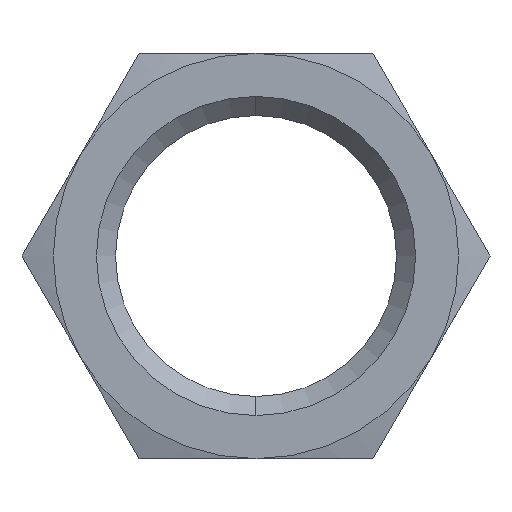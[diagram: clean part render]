
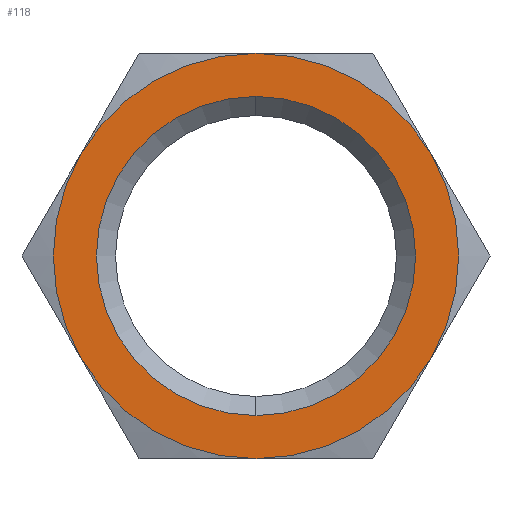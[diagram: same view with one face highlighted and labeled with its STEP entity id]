
A CAD part, left-side view. The second image highlights one B-rep face of the part: STEP entity #118.
In plain terms, the highlighted planar face has unit normal (-1, 0, 0).
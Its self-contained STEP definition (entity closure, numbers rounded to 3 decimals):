
#1 = EDGE_LOOP ( 'NONE', ( #2, #4 ) ) ;
#2 = ORIENTED_EDGE ( 'NONE', *, *, #3, .F. ) ;
#3 = EDGE_CURVE ( 'NONE', #828, #825, #75, .T. ) ;
#4 = ORIENTED_EDGE ( 'NONE', *, *, #827, .F. ) ;
#5 = EDGE_LOOP ( 'NONE', ( #6, #8, #13, #179, #181, #183 ) ) ;
#6 = ORIENTED_EDGE ( 'NONE', *, *, #7, .F. ) ;
#7 = EDGE_CURVE ( 'NONE', #843, #799, #70, .T. ) ;
#8 = ORIENTED_EDGE ( 'NONE', *, *, #9, .F. ) ;
#9 = EDGE_CURVE ( 'NONE', #95, #843, #65, .T. ) ;
#11 = VERTEX_POINT ( 'NONE', #59 ) ;
#13 = ORIENTED_EDGE ( 'NONE', *, *, #14, .F. ) ;
#14 = EDGE_CURVE ( 'NONE', #11, #95, #58, .T. ) ;
#34 = CARTESIAN_POINT ( 'NONE',  ( 0., -8.249, -4.763 ) ) ;
#54 = DIRECTION ( 'NONE',  ( 0., 0., -1. ) ) ;
#55 = DIRECTION ( 'NONE',  ( 1., 0., 0. ) ) ;
#56 = CARTESIAN_POINT ( 'NONE',  ( 0., 0., 0. ) ) ;
#57 = AXIS2_PLACEMENT_3D ( 'NONE', #56, #55, #54 ) ;
#58 = CIRCLE ( 'NONE', #57, 9.525 ) ;
#59 = CARTESIAN_POINT ( 'NONE',  ( 0., -8.249, 4.762 ) ) ;
#61 = DIRECTION ( 'NONE',  ( 0., 0., -1. ) ) ;
#62 = DIRECTION ( 'NONE',  ( 1., 0., 0. ) ) ;
#63 = CARTESIAN_POINT ( 'NONE',  ( 0., 0., 0. ) ) ;
#64 = AXIS2_PLACEMENT_3D ( 'NONE', #63, #62, #61 ) ;
#65 = CIRCLE ( 'NONE', #64, 9.525 ) ;
#66 = DIRECTION ( 'NONE',  ( 0., 0., -1. ) ) ;
#67 = DIRECTION ( 'NONE',  ( 1., 0., 0. ) ) ;
#68 = CARTESIAN_POINT ( 'NONE',  ( 0., 0., 0. ) ) ;
#69 = AXIS2_PLACEMENT_3D ( 'NONE', #68, #67, #66 ) ;
#70 = CIRCLE ( 'NONE', #69, 9.525 ) ;
#71 = DIRECTION ( 'NONE',  ( 0., 0., 1. ) ) ;
#72 = DIRECTION ( 'NONE',  ( -1., 0., 0. ) ) ;
#73 = CARTESIAN_POINT ( 'NONE',  ( 0., 0., 0. ) ) ;
#74 = AXIS2_PLACEMENT_3D ( 'NONE', #73, #72, #71 ) ;
#75 = CIRCLE ( 'NONE', #74, 7.5 ) ;
#95 = VERTEX_POINT ( 'NONE', #34 ) ;
#118 = ADVANCED_FACE ( 'NONE', ( #277, #276 ), #279, .F. ) ;
#179 = ORIENTED_EDGE ( 'NONE', *, *, #180, .F. ) ;
#180 = EDGE_CURVE ( 'NONE', #732, #11, #447, .T. ) ;
#181 = ORIENTED_EDGE ( 'NONE', *, *, #182, .T. ) ;
#182 = EDGE_CURVE ( 'NONE', #732, #780, #442, .T. ) ;
#183 = ORIENTED_EDGE ( 'NONE', *, *, #184, .F. ) ;
#184 = EDGE_CURVE ( 'NONE', #799, #780, #398, .T. ) ;
#276 = FACE_OUTER_BOUND ( 'NONE', #5, .T. ) ;
#277 = FACE_BOUND ( 'NONE', #1, .T. ) ;
#279 = PLANE ( 'NONE',  #347 ) ;
#298 = DIRECTION ( 'NONE',  ( 0., 0., -1. ) ) ;
#299 = DIRECTION ( 'NONE',  ( 1., 0., 0. ) ) ;
#347 = AXIS2_PLACEMENT_3D ( 'NONE', #354, #299, #298 ) ;
#354 = CARTESIAN_POINT ( 'NONE',  ( 0., 0., -22.775 ) ) ;
#374 = CARTESIAN_POINT ( 'NONE',  ( 0., 0., 9.525 ) ) ;
#394 = DIRECTION ( 'NONE',  ( 0., 0., -1. ) ) ;
#395 = DIRECTION ( 'NONE',  ( 1., 0., 0. ) ) ;
#396 = CARTESIAN_POINT ( 'NONE',  ( 0., 0., 0. ) ) ;
#397 = AXIS2_PLACEMENT_3D ( 'NONE', #396, #395, #394 ) ;
#398 = CIRCLE ( 'NONE', #397, 9.525 ) ;
#399 = DIRECTION ( 'NONE',  ( 0., 0., 1. ) ) ;
#400 = DIRECTION ( 'NONE',  ( -1., 0., 0. ) ) ;
#401 = CARTESIAN_POINT ( 'NONE',  ( 0., 0., 0. ) ) ;
#441 = AXIS2_PLACEMENT_3D ( 'NONE', #401, #400, #399 ) ;
#442 = CIRCLE ( 'NONE', #441, 9.525 ) ;
#443 = DIRECTION ( 'NONE',  ( 0., 0., -1. ) ) ;
#444 = DIRECTION ( 'NONE',  ( 1., 0., 0. ) ) ;
#445 = CARTESIAN_POINT ( 'NONE',  ( 0., 0., 0. ) ) ;
#446 = AXIS2_PLACEMENT_3D ( 'NONE', #445, #444, #443 ) ;
#447 = CIRCLE ( 'NONE', #446, 9.525 ) ;
#477 = CARTESIAN_POINT ( 'NONE',  ( 0., 8.249, 4.763 ) ) ;
#494 = CARTESIAN_POINT ( 'NONE',  ( 0., 0., -9.525 ) ) ;
#561 = CARTESIAN_POINT ( 'NONE',  ( 0., 0., 7.5 ) ) ;
#562 = DIRECTION ( 'NONE',  ( 0., 0., 1. ) ) ;
#563 = DIRECTION ( 'NONE',  ( -1., 0., 0. ) ) ;
#564 = CARTESIAN_POINT ( 'NONE',  ( 0., 0., 0. ) ) ;
#565 = AXIS2_PLACEMENT_3D ( 'NONE', #564, #563, #562 ) ;
#566 = CIRCLE ( 'NONE', #565, 7.5 ) ;
#567 = CARTESIAN_POINT ( 'NONE',  ( 0., 0., -7.5 ) ) ;
#649 = CARTESIAN_POINT ( 'NONE',  ( 0., 8.249, -4.762 ) ) ;
#732 = VERTEX_POINT ( 'NONE', #374 ) ;
#780 = VERTEX_POINT ( 'NONE', #477 ) ;
#799 = VERTEX_POINT ( 'NONE', #649 ) ;
#825 = VERTEX_POINT ( 'NONE', #567 ) ;
#827 = EDGE_CURVE ( 'NONE', #825, #828, #566, .T. ) ;
#828 = VERTEX_POINT ( 'NONE', #561 ) ;
#843 = VERTEX_POINT ( 'NONE', #494 ) ;
